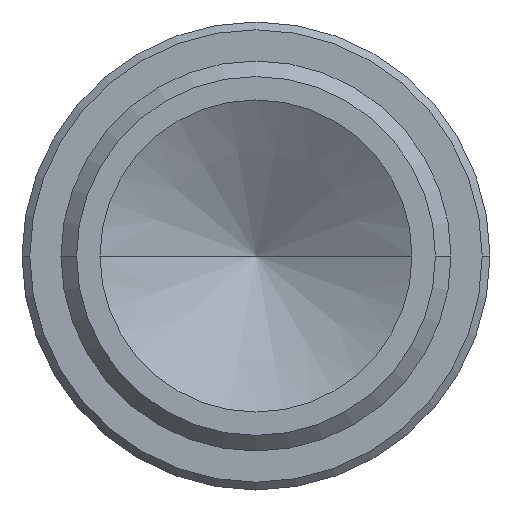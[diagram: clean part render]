
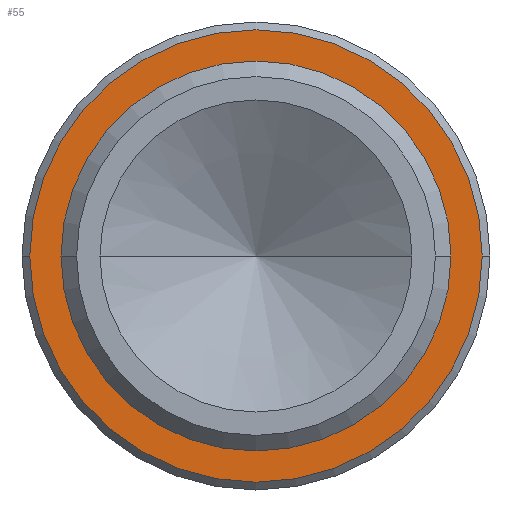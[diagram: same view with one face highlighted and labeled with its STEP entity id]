
A CAD part, left-side view. The second image highlights one B-rep face of the part: STEP entity #55.
In plain terms, the highlighted planar face has unit normal (-1, 0, 0).
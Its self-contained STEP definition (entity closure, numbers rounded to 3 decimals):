
#28=FACE_BOUND('',#114,.F.);
#33=PLANE('',#485);
#55=ADVANCED_FACE('',(#28,#84),#33,.T.);
#84=FACE_OUTER_BOUND('',#115,.F.);
#114=EDGE_LOOP('',(#171,#172));
#115=EDGE_LOOP('',(#173,#174));
#171=ORIENTED_EDGE('',*,*,#353,.T.);
#172=ORIENTED_EDGE('',*,*,#333,.T.);
#173=ORIENTED_EDGE('',*,*,#354,.F.);
#174=ORIENTED_EDGE('',*,*,#334,.F.);
#333=EDGE_CURVE('',#430,#429,#389,.T.);
#334=EDGE_CURVE('',#428,#427,#390,.T.);
#353=EDGE_CURVE('',#429,#430,#397,.T.);
#354=EDGE_CURVE('',#427,#428,#398,.T.);
#389=CIRCLE('',#457,1.25);
#390=CIRCLE('',#458,1.45);
#397=CIRCLE('',#465,1.25);
#398=CIRCLE('',#466,1.45);
#427=VERTEX_POINT('',#676);
#428=VERTEX_POINT('',#677);
#429=VERTEX_POINT('',#678);
#430=VERTEX_POINT('',#679);
#457=AXIS2_PLACEMENT_3D('',#704,#533,#534);
#458=AXIS2_PLACEMENT_3D('',#705,#535,#536);
#465=AXIS2_PLACEMENT_3D('',#724,#561,#562);
#466=AXIS2_PLACEMENT_3D('',#725,#563,#564);
#485=AXIS2_PLACEMENT_3D('',#756,#613,#614);
#533=DIRECTION('',(-1.,0.,0.));
#534=DIRECTION('',(0.,1.,0.));
#535=DIRECTION('',(-1.,0.,0.));
#536=DIRECTION('',(0.,1.,0.));
#561=DIRECTION('',(-1.,0.,0.));
#562=DIRECTION('',(0.,-1.,0.));
#563=DIRECTION('',(-1.,0.,0.));
#564=DIRECTION('',(0.,-1.,0.));
#613=DIRECTION('',(-1.,0.,0.));
#614=DIRECTION('',(0.,0.,1.));
#676=CARTESIAN_POINT('',(246.03,7.275,208.965));
#677=CARTESIAN_POINT('',(246.03,10.175,208.965));
#678=CARTESIAN_POINT('',(246.03,7.475,208.965));
#679=CARTESIAN_POINT('',(246.03,9.975,208.965));
#704=CARTESIAN_POINT('',(246.03,8.725,208.965));
#705=CARTESIAN_POINT('',(246.03,8.725,208.965));
#724=CARTESIAN_POINT('',(246.03,8.725,208.965));
#725=CARTESIAN_POINT('',(246.03,8.725,208.965));
#756=CARTESIAN_POINT('',(246.03,7.246,207.486));
